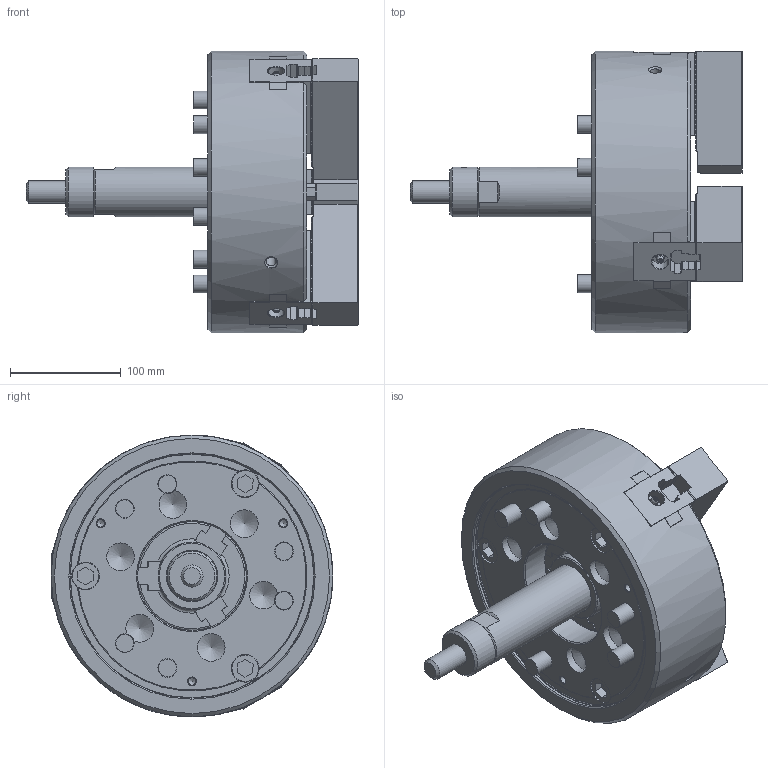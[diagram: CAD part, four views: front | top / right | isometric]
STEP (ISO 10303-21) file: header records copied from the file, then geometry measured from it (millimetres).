
FILE_DESCRIPTION (( 'STEP AP214' ), '1' );
FILE_NAME ('N-10_UC.STEP', '2020-03-08T23:25:44', ( '' ), ( '' ), 'SwSTEP 2.0', 'SolidWorks 2017', '' );
FILE_SCHEMA (( 'AUTOMOTIVE_DESIGN' ));
Length unit declared in the file: millimetre
Products named in the file (18): P316335 ソフトジョー_W_‡_[; Part1^61P266460_2 僋儈僞僥_^_e_棉太倌I佱UA; N-10_UC; 俛傾僫僣僉 M12x3512x35; P316335 ソフトジョー_W_‡_[_ﾃﾞﾌｫﾙﾄ_ATI≪UA; Part1^61P266460_2 クミタテ_^_e; 61P4008525 T僫僢僩b_g; 61P4008525 T僫僢僩b_g_棉太倌佱UA; 俛傾僫僣僉 M12x3512x35_B迸路 M12X3512X35
Assembly tree (13 placements, depth 2):
  P316335 ソフトジョー_W_‡_[
  N-10_UC
    P316335 ソフトジョー_W_‡_[_ﾃﾞﾌｫﾙﾄ_ATI≪UA  x3
    61P4008525 T僫僢僩b_g_棉太倌佱UA  x3
    俛傾僫僣僉 M12x3512x35_B迸路 M12X3512X35  x6
    Part1^61P266460_2 僋儈僞僥_^_e_棉太倌I佱UA
  俛傾僫僣僉 M12x3512x35
  俛傾僫僣僉 M12x3512x35
  俛傾僫僣僉 M12x3512x35
Bounding box: 299.2 x 254 x 254 mm (x, y, z)
Volume: 4695921.5 mm3; surface area: 462208.6 mm2
Topology: 13 solids, 13 shells, 3068 faces, 8795 edges, 5819 vertices
Faces by surface type: plane 2724, cylinder 208, cone 108, torus 22, sphere 6
Full cylindrical faces by diameter (mm): 1.9 x3, 6.8 x3, 8.5 x3, 8.8 x2, 9.5 x3, 10.2 x6, 12 x12, 13 x6, 15 x3, 16 x6, 17 x6, 18 x6, 19 x6, 20 x1, 24 x9, 25 x6, 26 x6, 27 x1, 34 x2, 38 x1, 45 x2, 98 x1, 220 x1, 221 x1, 254 x1
Entity records: 70113 total; most frequent: CARTESIAN_POINT 13534, ORIENTED_EDGE 12102, DIRECTION 10835, EDGE_CURVE 6051, LINE 5183, VECTOR 5183, VERTEX_POINT 4050, AXIS2_PLACEMENT_3D 2826
